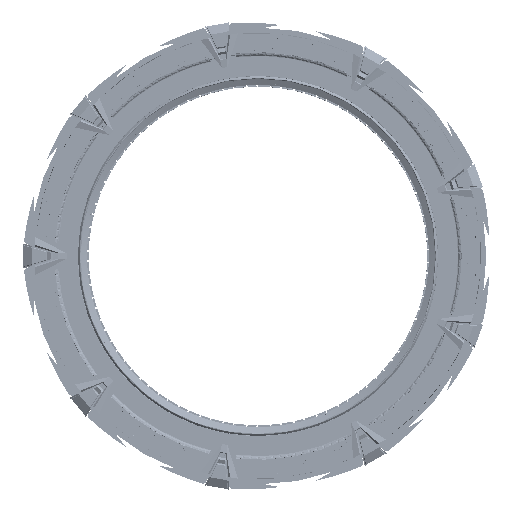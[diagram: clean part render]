
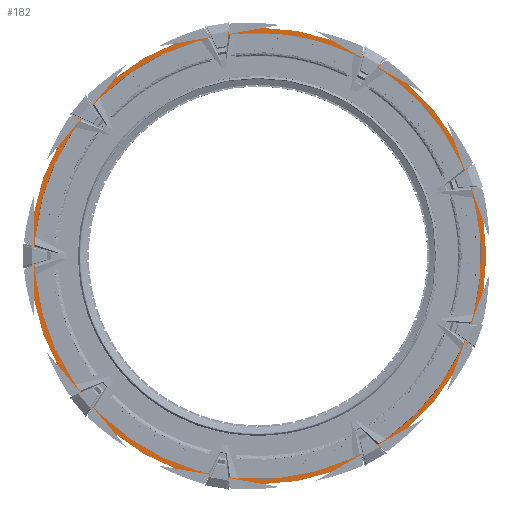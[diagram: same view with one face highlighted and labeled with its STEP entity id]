
A CAD part, left-side view. The second image highlights one B-rep face of the part: STEP entity #182.
In plain terms, the highlighted planar face has unit normal (-1, 0, 0).
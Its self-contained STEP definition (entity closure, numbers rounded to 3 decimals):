
#123=CARTESIAN_POINT('',(6.,0.,-508.0));
#124=VERTEX_POINT('',#123);
#125=CARTESIAN_POINT('',(6.,0.,0.0));
#126=DIRECTION('',(-1.0,0.0,0.0));
#127=DIRECTION('',(0.0,0.0,1.0));
#128=AXIS2_PLACEMENT_3D('',#125,#126,#127);
#129=CIRCLE('',#128,508.0);
#130=EDGE_CURVE('',#124,#124,#129,.T.);
#163=CARTESIAN_POINT('',(6.,0.,0.0));
#164=DIRECTION('',(1.0,0.0,0.0));
#165=DIRECTION('',(0.0,0.0,-1.0));
#166=AXIS2_PLACEMENT_3D('',#163,#164,#165);
#167=PLANE('',#166);
#168=ORIENTED_EDGE('',*,*,#130,.T.);
#169=EDGE_LOOP('',(#168));
#170=FACE_OUTER_BOUND('',#169,.T.);
#171=CARTESIAN_POINT('',(6.,0.,496.0));
#172=VERTEX_POINT('',#171);
#173=CARTESIAN_POINT('',(6.,0.,0.0));
#174=DIRECTION('',(-1.0,0.0,0.0));
#175=DIRECTION('',(0.0,0.0,-1.0));
#176=AXIS2_PLACEMENT_3D('',#173,#174,#175);
#177=CIRCLE('',#176,496.0);
#178=EDGE_CURVE('',#172,#172,#177,.T.);
#179=ORIENTED_EDGE('',*,*,#178,.F.);
#180=EDGE_LOOP('',(#179));
#181=FACE_BOUND('',#180,.T.);
#182=ADVANCED_FACE('',(#170,#181),#167,.F.);
